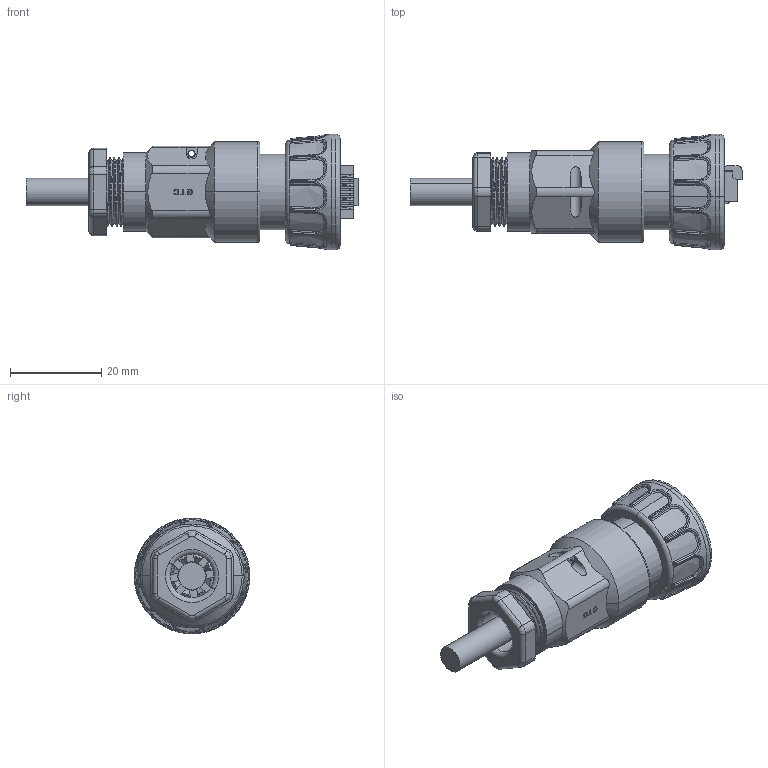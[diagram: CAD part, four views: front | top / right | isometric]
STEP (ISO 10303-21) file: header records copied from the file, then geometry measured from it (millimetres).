
FILE_DESCRIPTION (( 'STEP AP203' ), '1' );
FILE_NAME ('GT125330-00.STEP', '2011-11-04T05:32:44', ( 'RD-07' ), ( '' ), 'SwSTEP 2.0', 'SolidWorks 2010', '' );
FILE_SCHEMA (( 'CONFIG_CONTROL_DESIGN' ));
Products named in the file (12): 83001-M0104; 67225-00120_Default; 67153-00510_Default; 65153-00030_Default; GT125330-00; 60225-2B101_Default; 60152-X8110; 65152-0003X_01; 60152-XB104_01; 60153-XB105_02; 55708-00010_Default; 66125-30010
Assembly tree (11 placements, depth 2):
  GT125330-00
    67225-00120_Default
    67153-00510_Default
    55708-00010_Default
    60153-XB105_02
    65152-0003X_01
    83001-M0104
    60225-2B101_Default
    60152-X8110
    60152-XB104_01
    66125-30010
    65153-00030_Default
Bounding box: 72.8 x 25.31 x 25.31 mm (x, y, z)
Volume: 14248.9 mm3; surface area: 15937.3 mm2
Topology: 11 solids, 11 shells, 934 faces, 2507 edges, 1601 vertices
Faces by surface type: plane 381, cylinder 241, bspline 229, cone 46, torus 27, sphere 10
Entity records: 51967 total; most frequent: CARTESIAN_POINT 29377, ORIENTED_EDGE 4998, DIRECTION 3783, EDGE_CURVE 2499, VERTEX_POINT 1599, AXIS2_PLACEMENT_3D 1268, LINE 1247, VECTOR 1247
